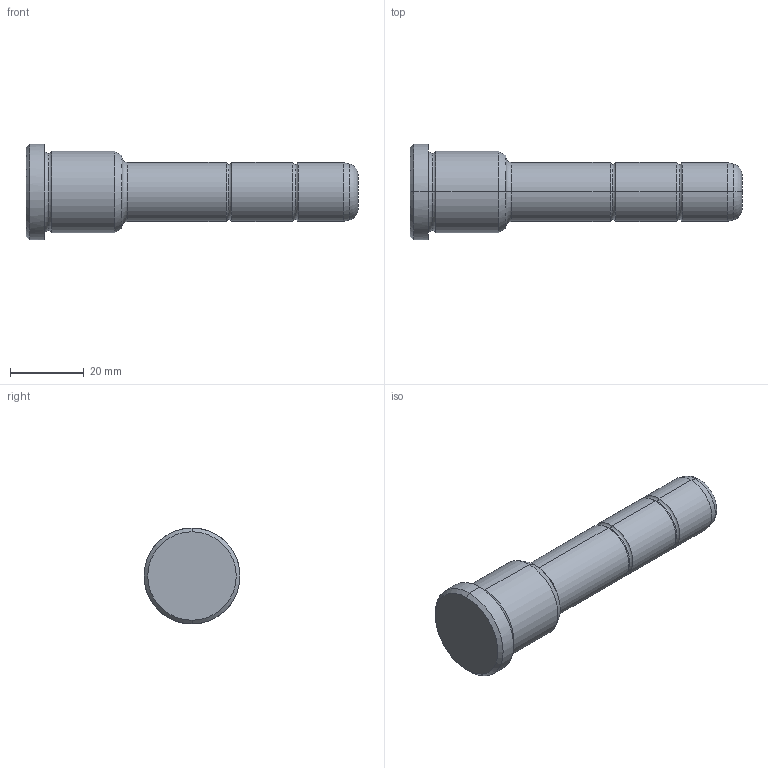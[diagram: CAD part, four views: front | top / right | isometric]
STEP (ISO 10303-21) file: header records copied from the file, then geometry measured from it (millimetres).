
FILE_DESCRIPTION(('CATIA V5 STEP Exchange'),'2;1');
FILE_NAME('C:\Users\Utente\Desktop\IO LAVORO\3D X SITO CF\X SITO\PLASTICA\351\351-16X26X90.stp','2021-08-18T10:51:47+00:00',('none'),('none'),'CATIA Version 5 Release 20 GA (IN-10)','CATIA V5 STEP AP203','none');
FILE_SCHEMA(('CONFIG_CONTROL_DESIGN'));
Length unit declared in the file: millimetre
Products named in the file (1): 351-16X26X90
Bounding box: 90 x 26 x 26 mm (x, y, z)
Volume: 23166 mm3; surface area: 5960 mm2
Topology: 1 solids, 1 shells, 36 faces, 102 edges, 70 vertices
Faces by surface type: torus 16, cylinder 10, cone 6, plane 4
Entity records: 1292 total; most frequent: CARTESIAN_POINT 321, ORIENTED_EDGE 204, DIRECTION 166, AXIS2_PLACEMENT_3D 115, EDGE_CURVE 102, CIRCLE 78, VERTEX_POINT 70, EDGE_LOOP 38
